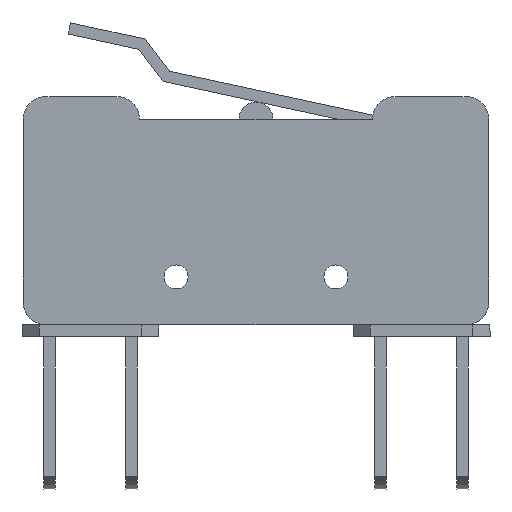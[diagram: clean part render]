
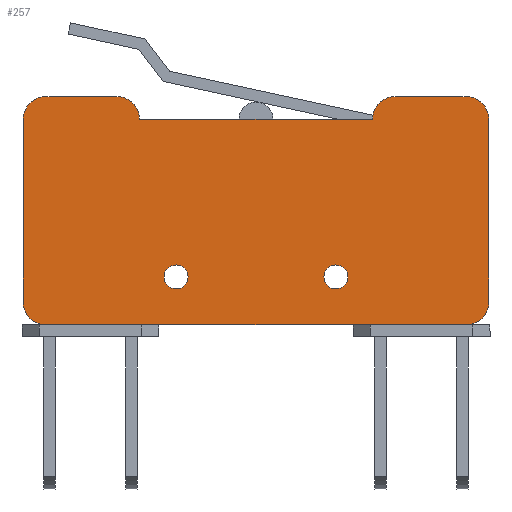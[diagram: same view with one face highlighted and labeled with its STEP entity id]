
A CAD part, left-side view. The second image highlights one B-rep face of the part: STEP entity #257.
In plain terms, the highlighted planar face has unit normal (-1, 0, 0).
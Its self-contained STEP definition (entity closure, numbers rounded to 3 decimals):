
#116=FACE_BOUND('',#495,.T.);
#117=FACE_BOUND('',#497,.T.);
#168=PLANE('',#2037);
#257=ADVANCED_FACE('',(#116,#386,#117),#168,.T.);
#386=FACE_OUTER_BOUND('',#496,.T.);
#495=EDGE_LOOP('',(#1239));
#496=EDGE_LOOP('',(#1240,#1241,#1242,#1243,#1244,#1245,#1246,#1247,#1248,
#1249,#1250,#1251));
#497=EDGE_LOOP('',(#1252));
#655=LINE('',#2887,#859);
#670=LINE('',#2918,#874);
#684=LINE('',#2946,#888);
#686=LINE('',#2954,#890);
#687=LINE('',#2959,#891);
#688=LINE('',#2963,#892);
#859=VECTOR('',#2359,1.);
#874=VECTOR('',#2376,1.);
#888=VECTOR('',#2392,1.);
#890=VECTOR('',#2400,1.);
#891=VECTOR('',#2405,1.);
#892=VECTOR('',#2408,1.);
#1239=ORIENTED_EDGE('',*,*,#1800,.F.);
#1240=ORIENTED_EDGE('',*,*,#1798,.T.);
#1241=ORIENTED_EDGE('',*,*,#1801,.T.);
#1242=ORIENTED_EDGE('',*,*,#1802,.T.);
#1243=ORIENTED_EDGE('',*,*,#1803,.T.);
#1244=ORIENTED_EDGE('',*,*,#1784,.T.);
#1245=ORIENTED_EDGE('',*,*,#1804,.F.);
#1246=ORIENTED_EDGE('',*,*,#1805,.F.);
#1247=ORIENTED_EDGE('',*,*,#1806,.F.);
#1248=ORIENTED_EDGE('',*,*,#1807,.F.);
#1249=ORIENTED_EDGE('',*,*,#1808,.F.);
#1250=ORIENTED_EDGE('',*,*,#1769,.T.);
#1251=ORIENTED_EDGE('',*,*,#1809,.T.);
#1252=ORIENTED_EDGE('',*,*,#1810,.T.);
#1559=VERTEX_POINT('',#2886);
#1560=VERTEX_POINT('',#2888);
#1574=VERTEX_POINT('',#2917);
#1575=VERTEX_POINT('',#2919);
#1587=VERTEX_POINT('',#2945);
#1588=VERTEX_POINT('',#2947);
#1589=VERTEX_POINT('',#2951);
#1590=VERTEX_POINT('',#2953);
#1591=VERTEX_POINT('',#2955);
#1592=VERTEX_POINT('',#2958);
#1593=VERTEX_POINT('',#2960);
#1594=VERTEX_POINT('',#2962);
#1595=VERTEX_POINT('',#2964);
#1596=VERTEX_POINT('',#2968);
#1769=EDGE_CURVE('',#1560,#1559,#655,.T.);
#1784=EDGE_CURVE('',#1575,#1574,#670,.T.);
#1798=EDGE_CURVE('',#1588,#1587,#684,.T.);
#1800=EDGE_CURVE('',#1589,#1589,#1923,.T.);
#1801=EDGE_CURVE('',#1587,#1590,#1924,.T.);
#1802=EDGE_CURVE('',#1590,#1591,#686,.T.);
#1803=EDGE_CURVE('',#1591,#1575,#1925,.T.);
#1804=EDGE_CURVE('',#1592,#1574,#1926,.T.);
#1805=EDGE_CURVE('',#1593,#1592,#687,.T.);
#1806=EDGE_CURVE('',#1594,#1593,#1927,.T.);
#1807=EDGE_CURVE('',#1595,#1594,#688,.T.);
#1808=EDGE_CURVE('',#1560,#1595,#1928,.T.);
#1809=EDGE_CURVE('',#1559,#1588,#1929,.T.);
#1810=EDGE_CURVE('',#1596,#1596,#1930,.T.);
#1923=CIRCLE('',#2029,0.525);
#1924=CIRCLE('',#2030,1.);
#1925=CIRCLE('',#2031,1.);
#1926=CIRCLE('',#2032,1.);
#1927=CIRCLE('',#2033,1.);
#1928=CIRCLE('',#2034,1.);
#1929=CIRCLE('',#2035,1.);
#1930=CIRCLE('',#2036,0.525);
#2029=AXIS2_PLACEMENT_3D('',#2950,#2396,#2397);
#2030=AXIS2_PLACEMENT_3D('',#2952,#2398,#2399);
#2031=AXIS2_PLACEMENT_3D('',#2956,#2401,#2402);
#2032=AXIS2_PLACEMENT_3D('',#2957,#2403,#2404);
#2033=AXIS2_PLACEMENT_3D('',#2961,#2406,#2407);
#2034=AXIS2_PLACEMENT_3D('',#2965,#2409,#2410);
#2035=AXIS2_PLACEMENT_3D('',#2966,#2411,#2412);
#2036=AXIS2_PLACEMENT_3D('',#2967,#2413,#2414);
#2037=AXIS2_PLACEMENT_3D('',#2969,#2415,#2416);
#2359=DIRECTION('',(0.,-1.,0.));
#2376=DIRECTION('',(0.,1.,0.));
#2392=DIRECTION('',(0.,0.,1.));
#2396=DIRECTION('',(-1.,0.,0.));
#2397=DIRECTION('',(0.,0.,1.));
#2398=DIRECTION('',(-1.,0.,0.));
#2399=DIRECTION('',(0.,0.,1.));
#2400=DIRECTION('',(0.,1.,0.));
#2401=DIRECTION('',(-1.,0.,0.));
#2402=DIRECTION('',(0.,0.,1.));
#2403=DIRECTION('',(1.,0.,0.));
#2404=DIRECTION('',(0.,0.,1.));
#2405=DIRECTION('',(0.,-1.,0.));
#2406=DIRECTION('',(1.,0.,0.));
#2407=DIRECTION('',(0.,0.,1.));
#2408=DIRECTION('',(0.,0.,1.));
#2409=DIRECTION('',(1.,0.,0.));
#2410=DIRECTION('',(0.,0.,1.));
#2411=DIRECTION('',(-1.,0.,0.));
#2412=DIRECTION('',(0.,0.,1.));
#2413=DIRECTION('',(1.,0.,0.));
#2414=DIRECTION('',(0.,0.,1.));
#2415=DIRECTION('',(-1.,0.,0.));
#2416=DIRECTION('',(0.,0.,1.));
#2886=CARTESIAN_POINT('',(0.,1.,0.));
#2887=CARTESIAN_POINT('',(0.,5.1,0.));
#2888=CARTESIAN_POINT('',(0.,19.4,0.));
#2917=CARTESIAN_POINT('',(0.,15.3,9.));
#2918=CARTESIAN_POINT('',(0.,5.1,9.));
#2919=CARTESIAN_POINT('',(0.,5.1,9.));
#2945=CARTESIAN_POINT('',(0.,0.,9.));
#2946=CARTESIAN_POINT('',(0.,0.,0.));
#2947=CARTESIAN_POINT('',(0.,0.,1.));
#2950=CARTESIAN_POINT('',(0.,6.7,2.1));
#2951=CARTESIAN_POINT('',(0.,6.7,2.625));
#2952=CARTESIAN_POINT('',(0.,1.,9.));
#2953=CARTESIAN_POINT('',(0.,1.,10.));
#2954=CARTESIAN_POINT('',(0.,0.,10.));
#2955=CARTESIAN_POINT('',(0.,4.1,10.));
#2956=CARTESIAN_POINT('',(0.,4.1,9.));
#2957=CARTESIAN_POINT('',(0.,16.3,9.));
#2958=CARTESIAN_POINT('',(0.,16.3,10.));
#2959=CARTESIAN_POINT('',(0.,20.4,10.));
#2960=CARTESIAN_POINT('',(0.,19.4,10.));
#2961=CARTESIAN_POINT('',(0.,19.4,9.));
#2962=CARTESIAN_POINT('',(0.,20.4,9.));
#2963=CARTESIAN_POINT('',(0.,20.4,0.));
#2964=CARTESIAN_POINT('',(0.,20.4,1.));
#2965=CARTESIAN_POINT('',(0.,19.4,1.));
#2966=CARTESIAN_POINT('',(0.,1.,1.));
#2967=CARTESIAN_POINT('',(0.,13.7,2.1));
#2968=CARTESIAN_POINT('',(0.,13.7,2.625));
#2969=CARTESIAN_POINT('',(0.,5.1,0.));
